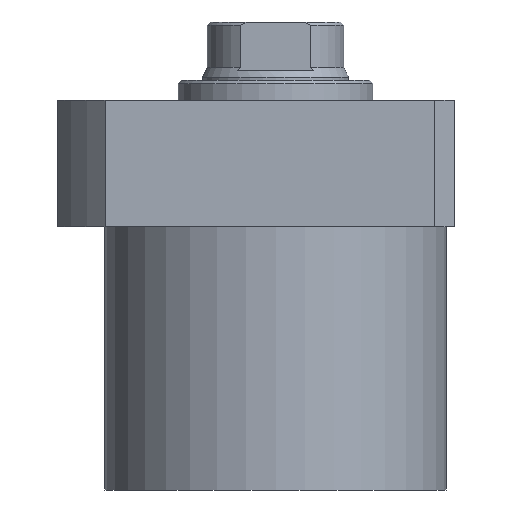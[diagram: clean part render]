
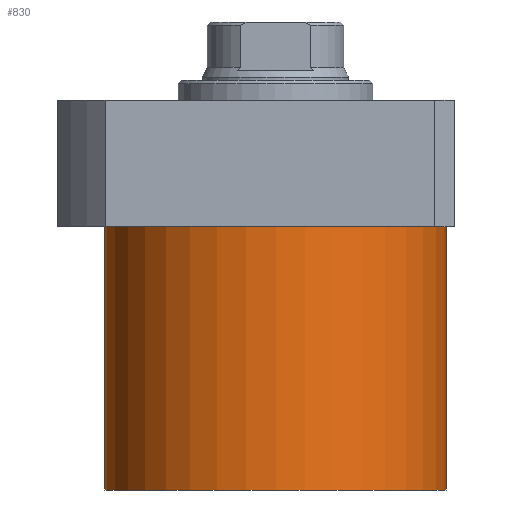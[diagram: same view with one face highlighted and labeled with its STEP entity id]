
A CAD part, front view. The second image highlights one B-rep face of the part: STEP entity #830.
In plain terms, the highlighted cylindrical face has radius 52.5 mm (diameter 105 mm), a partial arc.
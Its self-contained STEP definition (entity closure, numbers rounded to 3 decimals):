
#5 = ORIENTED_EDGE ( 'NONE', *, *, #1879, .T. ) ;
#58 = CYLINDRICAL_SURFACE ( 'NONE', #249, 52.5 ) ;
#70 = CARTESIAN_POINT ( 'NONE',  ( 52.5, 0., -100.5 ) ) ;
#73 = VERTEX_POINT ( 'NONE', #173 ) ;
#92 = DIRECTION ( 'NONE',  ( 0., 0., -1. ) ) ;
#173 = CARTESIAN_POINT ( 'NONE',  ( -52.5, 0., -19.5 ) ) ;
#222 = DIRECTION ( 'NONE',  ( 1., 0., 0. ) ) ;
#239 = CIRCLE ( 'NONE', #839, 52.5 ) ;
#249 = AXIS2_PLACEMENT_3D ( 'NONE', #1218, #383, #510 ) ;
#278 = VECTOR ( 'NONE', #1906, 1000. ) ;
#284 = VECTOR ( 'NONE', #1791, 1000. ) ;
#373 = CARTESIAN_POINT ( 'NONE',  ( 0., 0., -19.5 ) ) ;
#383 = DIRECTION ( 'NONE',  ( 0., 0., 1. ) ) ;
#413 = LINE ( 'NONE', #1878, #278 ) ;
#448 = CARTESIAN_POINT ( 'NONE',  ( 52.5, 0., -100.5 ) ) ;
#480 = VERTEX_POINT ( 'NONE', #1440 ) ;
#510 = DIRECTION ( 'NONE',  ( 1., 0., 0. ) ) ;
#809 = ORIENTED_EDGE ( 'NONE', *, *, #1547, .F. ) ;
#830 = ADVANCED_FACE ( 'NONE', ( #1557 ), #58, .T. ) ;
#836 = VERTEX_POINT ( 'NONE', #70 ) ;
#839 = AXIS2_PLACEMENT_3D ( 'NONE', #373, #92, #222 ) ;
#1021 = CARTESIAN_POINT ( 'NONE',  ( 52.5, 0., -19.5 ) ) ;
#1043 = CARTESIAN_POINT ( 'NONE',  ( 0., 0., -100.5 ) ) ;
#1048 = ORIENTED_EDGE ( 'NONE', *, *, #1349, .F. ) ;
#1063 = AXIS2_PLACEMENT_3D ( 'NONE', #1043, #1807, #1164 ) ;
#1101 = LINE ( 'NONE', #448, #284 ) ;
#1153 = EDGE_CURVE ( 'NONE', #1446, #73, #239, .T. ) ;
#1164 = DIRECTION ( 'NONE',  ( -1., 0., 0. ) ) ;
#1218 = CARTESIAN_POINT ( 'NONE',  ( 0., 0., -100.5 ) ) ;
#1335 = CIRCLE ( 'NONE', #1063, 52.5 ) ;
#1349 = EDGE_CURVE ( 'NONE', #480, #73, #413, .T. ) ;
#1440 = CARTESIAN_POINT ( 'NONE',  ( -52.5, 0., -100.5 ) ) ;
#1446 = VERTEX_POINT ( 'NONE', #1021 ) ;
#1547 = EDGE_CURVE ( 'NONE', #836, #480, #1335, .T. ) ;
#1557 = FACE_OUTER_BOUND ( 'NONE', #1842, .T. ) ;
#1677 = ORIENTED_EDGE ( 'NONE', *, *, #1153, .T. ) ;
#1791 = DIRECTION ( 'NONE',  ( 0., 0., 1. ) ) ;
#1807 = DIRECTION ( 'NONE',  ( 0., 0., -1. ) ) ;
#1842 = EDGE_LOOP ( 'NONE', ( #1048, #809, #5, #1677 ) ) ;
#1878 = CARTESIAN_POINT ( 'NONE',  ( -52.5, 0., -100.5 ) ) ;
#1879 = EDGE_CURVE ( 'NONE', #836, #1446, #1101, .T. ) ;
#1906 = DIRECTION ( 'NONE',  ( 0., 0., 1. ) ) ;
